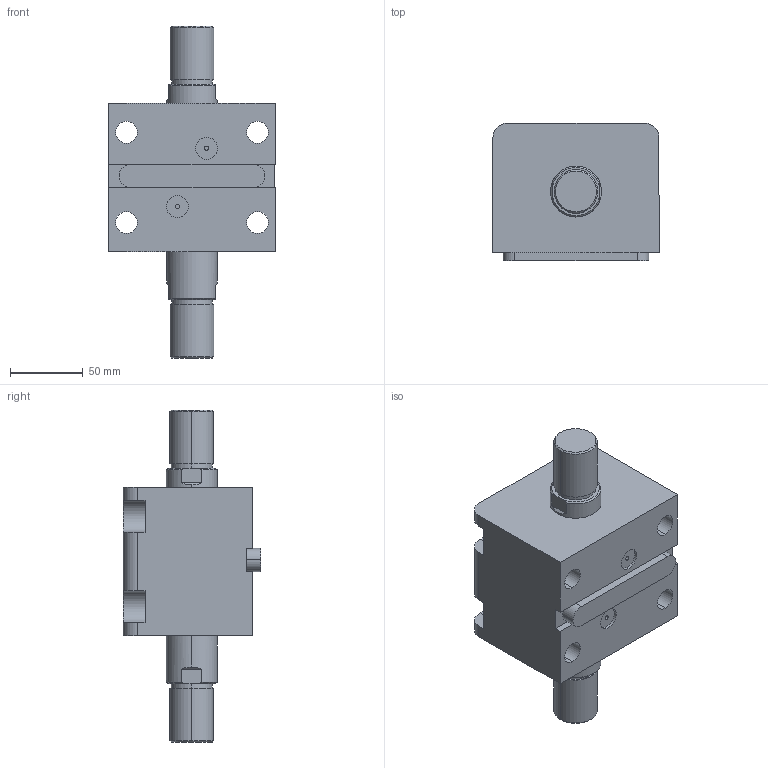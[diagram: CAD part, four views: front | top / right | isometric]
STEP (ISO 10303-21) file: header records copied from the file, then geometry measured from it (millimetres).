
FILE_DESCRIPTION (( 'STEP AP203' ), '1' );
FILE_NAME ('HTB-LWM63-20W.STEP', '2020-12-25T03:38:15', ( '微软用户' ), ( '微软中国' ), 'SwSTEP 2.0', 'SolidWorks 2012', '' );
FILE_SCHEMA (( 'CONFIG_CONTROL_DESIGN' ));
Length unit declared in the file: millimetre
Products named in the file (4): HTB-LWM63-20W; HTB-LWM63-瑩; HTB-LWM63-20W活塞杆; HTB-LWM63-20掛极
Assembly tree (3 placements, depth 2):
  HTB-LWM63-20W
    HTB-LWM63-20掛极
    HTB-LWM63-20W活塞杆
    HTB-LWM63-瑩
Bounding box: 114 x 94.5 x 228 mm (x, y, z)
Volume: 1015584.8 mm3; surface area: 130913 mm2
Topology: 3 solids, 3 shells, 113 faces, 273 edges, 178 vertices
Faces by surface type: cylinder 49, plane 48, torus 8, cone 8
Entity records: 3783 total; most frequent: CARTESIAN_POINT 626, DIRECTION 617, ORIENTED_EDGE 546, EDGE_CURVE 273, AXIS2_PLACEMENT_3D 241, VERTEX_POINT 178, EDGE_LOOP 135, LINE 135
